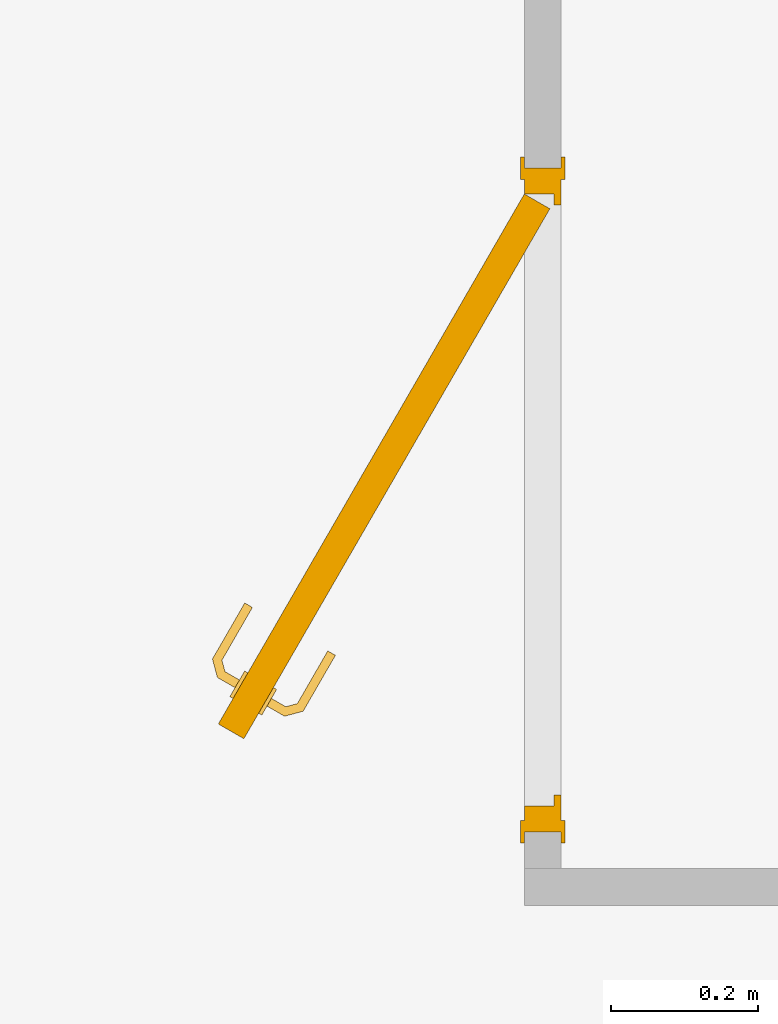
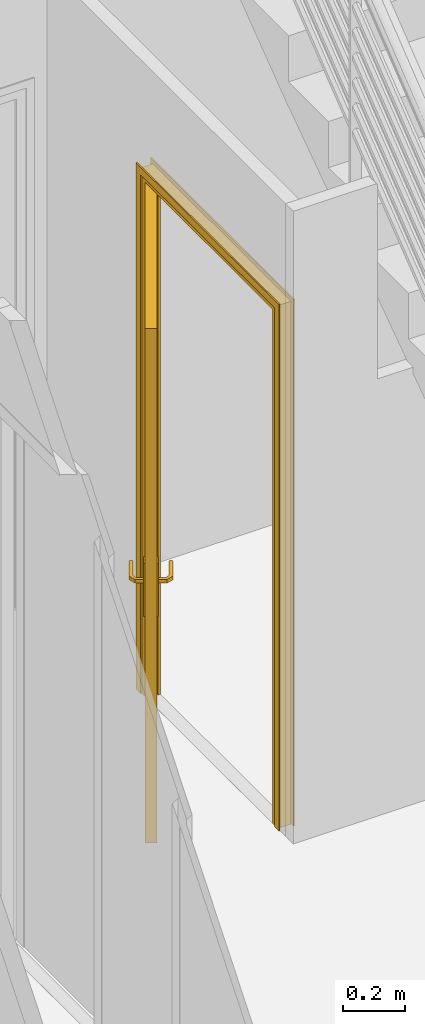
# One storey, part 11 of 13: 1 door.
"""IFC2X3 building model written with IfcOpenShell, lengths in millimetres."""

from ifc_helpers import new_model, entity, si_unit, converted_unit, direction, frame, origin, origin_with_axes, place, context, project, spatial, faceted_brep, element, save


model = new_model("IFC2X3")

# Units and contexts
model_context = context("Model", 3, precision=1e-05, world=origin(), true_north=direction((0.0, 1.0, 0.0)))
ifc_project = project(units=[si_unit("LENGTHUNIT", "METRE", prefix="MILLI"), si_unit("AREAUNIT", "SQUARE_METRE"), si_unit("VOLUMEUNIT", "CUBIC_METRE"), converted_unit("PLANEANGLEUNIT", "DEGREE", entity("IfcPlaneAngleMeasure", 0.01745), si_unit("PLANEANGLEUNIT", "RADIAN"), dimensions=[0, 0, 0, 0, 0, 0, 0]), si_unit("SOLIDANGLEUNIT", "STERADIAN"), si_unit("MASSUNIT", "GRAM"), si_unit("TIMEUNIT", "SECOND"), si_unit("THERMODYNAMICTEMPERATUREUNIT", "DEGREE_CELSIUS"), si_unit("LUMINOUSINTENSITYUNIT", "LUMEN")], contexts=[model_context])

# Site, building, storey
placement = place(None, origin_with_axes())
site_placement = place(placement, frame((11636.08881703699, 2815.7442167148, 4.768371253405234e-06), z_axis=(0.0, 0.0, 1.0), x_axis=(1.0, 0.0, 0.0)))
site = spatial("IfcSite", under=ifc_project, at=site_placement, Name="Surface", CompositionType="ELEMENT")
building_placement = place(placement, origin_with_axes())
building = spatial("IfcBuilding", under=site, at=building_placement, Name="Default Building", CompositionType="ELEMENT")
storey_placement = place(building_placement, origin_with_axes())
storey = spatial("IfcBuildingStorey", under=building, at=storey_placement, Name="Rez de chaussée", CompositionType="ELEMENT", Elevation=0.0)

# Door
door_placement = place(storey_placement, frame((11636.08881703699, 2815.7442167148, 4.768371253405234e-06), z_axis=(0.0, 0.0, 1.0), x_axis=(1.0, 0.0, 0.0)))
element("IfcDoor", 1, at=door_placement, inside=storey, Name="IfcDoor - Int. Simple:PP (0.83m x 2.04m)", context=model_context, shape_type="Brep", body=[
    faceted_brep([(68.91118184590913, 29.25578090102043, 4.291534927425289e-05), (73.91118080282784, -0.7442202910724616, 4.291534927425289e-05), (68.91118184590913, -0.7442202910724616, 4.291534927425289e-05), (73.91118080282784, 29.25578090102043, 4.291534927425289e-05), (68.91118184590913, 899.255785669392, 4.291534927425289e-05), (73.91118080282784, 929.2557868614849, 4.291534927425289e-05), (73.91118080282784, 899.255785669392, 4.291534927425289e-05), (68.91118184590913, 929.2557868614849, 4.291534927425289e-05), (68.91118184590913, 29.25578090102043, 2059.99998569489), (73.91118080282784, 899.255785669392, 2059.99998569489), (73.91118080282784, 29.25578090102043, 2059.99998569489), (68.91118184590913, 899.255785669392, 2059.99998569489), (73.91118080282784, -0.7442202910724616, 2089.999957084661), (68.91118184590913, 929.2557868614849, 2089.999957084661), (68.91118184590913, -0.7442202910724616, 2089.999957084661), (73.91118080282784, 929.2557868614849, 2089.999957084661), (123.9111815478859, 29.25578090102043, 2059.99998569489), (128.9111805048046, 899.255785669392, 2059.99998569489), (128.9111805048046, 29.25578090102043, 2059.99998569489), (123.9111815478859, 899.255785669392, 2059.99998569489), (128.9111805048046, -0.7442202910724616, 2089.999957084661), (123.9111815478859, 929.2557868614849, 2089.999957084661), (123.9111815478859, -0.7442202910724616, 2089.999957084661), (128.9111805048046, 929.2557868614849, 2089.999957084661), (123.9111815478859, 929.2557868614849, 4.291534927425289e-05), (128.9111805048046, 929.2557868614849, 4.291534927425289e-05), (128.9111805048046, 899.255785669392, 4.291534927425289e-05), (123.9111815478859, 899.255785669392, 4.291534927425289e-05), (123.9111815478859, 29.25578090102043, 4.291534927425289e-05), (128.9111805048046, 29.25578090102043, 4.291534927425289e-05), (128.9111805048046, -0.7442202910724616, 4.291534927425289e-05), (123.9111815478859, -0.7442202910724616, 4.291534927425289e-05), (73.91118080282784, 49.25579162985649, 2040.000004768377), (113.9111808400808, 879.2557749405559, 2040.000004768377), (113.9111808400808, 49.25579162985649, 2040.000004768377), (73.91118080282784, 879.2557749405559, 2040.000004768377), (113.9111808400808, 64.25577732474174, 2025.000019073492), (123.9111815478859, 864.2557892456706, 2025.000019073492), (123.9111815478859, 64.25577732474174, 2025.000019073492), (113.9111808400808, 864.2557892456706, 2025.000019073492), (123.9111815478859, 14.25579520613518, 2074.999971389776), (73.91118080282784, 914.2557713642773, 2074.999971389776), (73.91118080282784, 14.25579520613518, 2074.999971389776), (123.9111815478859, 914.2557713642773, 2074.999971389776), (113.9111808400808, 879.2557749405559, 4.291534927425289e-05), (73.91118080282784, 879.2557749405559, 4.291534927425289e-05), (123.9111815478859, 864.2557892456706, 4.291534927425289e-05), (113.9111808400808, 864.2557892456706, 4.291534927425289e-05), (123.9111815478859, 914.2557713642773, 4.291534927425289e-05), (73.91118080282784, 914.2557713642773, 4.291534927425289e-05), (73.91118080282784, 49.25579162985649, 4.291534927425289e-05), (73.91118080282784, 14.25579520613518, 4.291534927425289e-05), (113.9111808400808, 49.25579162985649, 4.291534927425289e-05), (113.9111808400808, 64.25577732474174, 4.291534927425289e-05), (123.9111815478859, 64.25577732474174, 4.291534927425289e-05), (123.9111815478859, 14.25579520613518, 4.291534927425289e-05), (-306.4478077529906, 140.4547096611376, 2039.999980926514), (-341.088820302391, 160.4546905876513, 1.907348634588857e-05), (-306.4478077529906, 140.4547096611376, 1.907348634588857e-05), (-341.088820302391, 160.4546905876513, 2039.999980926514), (73.91118625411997, 879.2557717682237, 1.907348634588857e-05), (108.5521988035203, 859.2557908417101, 1.907348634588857e-05), (73.91118625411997, 879.2557717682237, 2039.999980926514), (108.5521988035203, 859.2557908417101, 2039.999980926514), (-231.3367275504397, 184.660525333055, 992.2195583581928), (-208.5310479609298, 220.1105219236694, 992.1213131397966), (-228.6677135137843, 181.1821994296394, 992.2195583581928), (-206.0834651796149, 212.3498593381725, 992.99999922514), (-213.3156133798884, 223.8234125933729, 992.99999922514), (-189.2332842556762, 257.5858191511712, 992.2195583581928), (-185.7253646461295, 255.5605203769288, 992.2195583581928), (-192.6754822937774, 259.5731693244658, 992.99999922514), (-233.9557295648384, 188.0736772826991, 992.99999922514), (-226.0487077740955, 177.769043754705, 992.99999922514), (-182.2831740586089, 253.573169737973, 992.99999922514), (-226.0487077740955, 177.769043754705, 1007.000001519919), (-206.0834651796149, 212.3498593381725, 1007.000001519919), (-182.2831740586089, 253.573169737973, 1007.000001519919), (-189.2332842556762, 257.5858191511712, 1007.780442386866), (-208.5310479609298, 220.1105219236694, 1007.878685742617), (-185.7253646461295, 255.5605203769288, 1007.780442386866), (-213.3156059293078, 223.8234237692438, 1007.000001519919), (-231.3367275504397, 184.660525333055, 1007.780442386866), (-228.6677135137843, 181.1821994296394, 1007.780442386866), (-192.6754822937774, 259.5731693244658, 1007.000001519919), (-233.9557295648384, 188.0736772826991, 1007.000001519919), (-250.2064656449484, 179.6043899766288, 992.2195583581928), (-249.644918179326, 183.8697728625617, 992.99999922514), (-251.3402838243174, 170.9921893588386, 992.99999922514), (-250.7787354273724, 175.2575647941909, 992.2195583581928), (-251.3402838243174, 170.9921893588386, 1007.000001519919), (-250.7787354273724, 175.2575647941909, 1007.780442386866), (-249.644918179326, 183.8697728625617, 1007.000001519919), (-250.2064656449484, 179.6043899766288, 1007.780442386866), (-271.1050261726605, 191.6701842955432, 992.2195583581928), (-269.1176757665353, 195.1123748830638, 992.99999922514), (-273.1303249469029, 188.1622609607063, 992.2195583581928), (-275.1176755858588, 184.7200703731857, 992.99999922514), (-275.1176755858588, 184.7200703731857, 1007.000001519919), (-273.1303249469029, 188.1622609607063, 1007.780442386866), (-271.1050261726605, 191.6701842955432, 1007.780442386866), (-269.1176757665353, 195.1123748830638, 1007.000001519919), (-305.2711820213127, 324.5489832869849, 992.99999922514), (-349.0918984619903, 248.6492809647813, 1007.000001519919), (-305.2711820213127, 324.5489832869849, 1007.000001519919), (-329.1266595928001, 283.2300898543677, 992.99999922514), (-349.0918984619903, 248.6492809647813, 992.99999922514), (-298.3210680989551, 320.5363389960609, 992.2195583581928), (-321.1543409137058, 285.0385506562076, 992.1213131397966), (-301.8289914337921, 322.5616377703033, 992.2195583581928), (-315.5465943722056, 282.7514496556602, 992.99999922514), (-340.4796903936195, 247.5154625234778, 992.2195583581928), (-344.8265155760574, 248.0877330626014, 992.2195583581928), (-294.8788775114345, 318.5489860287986, 992.99999922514), (-336.2143075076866, 246.9539146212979, 992.99999922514), (-294.8788775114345, 318.5489860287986, 1007.000001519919), (-315.5465943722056, 282.7514496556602, 1007.000001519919), (-336.2143075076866, 246.9539146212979, 1007.000001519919), (-340.4796903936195, 247.5154625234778, 1007.780442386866), (-321.1543409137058, 285.0385506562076, 1007.878685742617), (-344.8265155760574, 248.0877330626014, 1007.780442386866), (-329.1266521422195, 283.2300973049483, 1007.000001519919), (-298.3210680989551, 320.5363389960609, 1007.780442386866), (-301.8289914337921, 322.5616377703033, 1007.780442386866), (-342.3653727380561, 223.5455450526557, 992.99999922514), (-342.3653727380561, 223.5455450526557, 1007.000001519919), (-338.9522170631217, 226.1645507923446, 992.2195583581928), (-332.0607354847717, 231.4525687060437, 992.99999922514), (-335.4738911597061, 228.833564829, 992.2195583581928), (-332.0607354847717, 231.4525687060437, 1007.000001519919), (-335.4738911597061, 228.833564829, 1007.780442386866), (-338.9522170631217, 226.1645507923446, 1007.780442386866), (-318.418945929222, 209.7200688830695, 992.99999922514), (-318.418945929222, 209.7200688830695, 1007.000001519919), (-316.4315966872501, 213.1622631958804, 992.2195583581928), (-314.4062979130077, 216.6701828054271, 992.2195583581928), (-312.4189449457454, 220.1123752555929, 992.99999922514), (-312.4189449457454, 220.1123752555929, 1007.000001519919), (-314.4062979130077, 216.6701828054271, 1007.780442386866), (-316.4315966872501, 213.1622631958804, 1007.780442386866), (-262.1176755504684, 207.2367307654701, 870.0000032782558), (-266.4478027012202, 209.7367321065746, 1079.999996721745), (-262.1176755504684, 207.2367307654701, 1079.999996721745), (-266.4478027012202, 209.7367321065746, 870.0000032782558), (-271.2714218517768, 201.3819788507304, 866.0039812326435), (-266.9412947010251, 198.8819775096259, 866.0039812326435), (-272.1176755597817, 189.9162207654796, 864.6410167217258), (-276.4478025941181, 192.4162221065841, 864.6410167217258), (-277.294056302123, 180.9504640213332, 866.0039812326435), (-281.6241828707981, 183.4504690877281, 866.0039812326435), (-282.1176758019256, 172.5957107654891, 870.0000032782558), (-286.4478023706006, 175.095715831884, 870.0000032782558), (-286.4478023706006, 175.095715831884, 1079.999996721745), (-282.1176758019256, 172.5957107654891, 1079.999996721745), (-281.6241828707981, 183.4504690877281, 1083.996018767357), (-277.294056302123, 180.9504640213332, 1083.996018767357), (-272.1176755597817, 189.9162207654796, 1085.358983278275), (-276.4478025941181, 192.4162221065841, 1085.358983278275), (-266.9412947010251, 198.8819775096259, 1083.996018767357), (-271.2714218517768, 201.3819788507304, 1083.996018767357), (-321.0888205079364, 195.0957153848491, 870.0000032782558), (-325.4189452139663, 197.5957130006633, 1079.999996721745), (-325.4189452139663, 197.5957130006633, 870.0000032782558), (-321.0888205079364, 195.0957153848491, 1079.999996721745), (-320.5953275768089, 205.9504662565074, 1083.996018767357), (-316.2651991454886, 203.4504686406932, 1083.996018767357), (-311.0888188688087, 212.4162216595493, 1085.358983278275), (-315.4189473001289, 214.9162230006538, 1085.358983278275), (-305.9124385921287, 221.3819765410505, 1083.996018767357), (-310.2425632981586, 223.881977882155, 1083.996018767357), (-301.088817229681, 229.7367297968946, 1079.999996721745), (-305.4189456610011, 232.2367302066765, 1079.999996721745), (-301.088817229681, 229.7367297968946, 870.0000032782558), (-305.4189456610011, 232.2367302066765, 870.0000032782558), (-310.2425632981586, 223.881977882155, 866.0039812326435), (-305.9124385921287, 221.3819765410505, 866.0039812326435), (-311.0888188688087, 212.4162216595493, 864.6410167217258), (-315.4189473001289, 214.9162230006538, 864.6410167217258), (-316.2651991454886, 203.4504686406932, 866.0039812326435), (-320.5953275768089, 205.9504662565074, 866.0039812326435)], [[[0, 1, 2]], [[0, 3, 1]], [[4, 5, 6]], [[4, 7, 5]], [[8, 9, 10]], [[8, 11, 9]], [[12, 13, 14]], [[12, 15, 13]], [[15, 7, 13]], [[15, 5, 7]], [[11, 6, 9]], [[11, 4, 6]], [[0, 10, 3]], [[0, 8, 10]], [[12, 10, 15]], [[1, 10, 12]], [[10, 1, 3]], [[9, 15, 10]], [[6, 15, 9]], [[15, 6, 5]], [[1, 14, 2]], [[1, 12, 14]], [[13, 11, 14]], [[7, 11, 13]], [[11, 7, 4]], [[8, 14, 11]], [[0, 14, 8]], [[14, 0, 2]], [[16, 17, 18]], [[16, 19, 17]], [[20, 21, 22]], [[20, 23, 21]], [[23, 24, 21]], [[23, 25, 24]], [[19, 26, 17]], [[19, 27, 26]], [[27, 25, 26]], [[27, 24, 25]], [[28, 18, 29]], [[28, 16, 18]], [[20, 18, 23]], [[30, 18, 20]], [[18, 30, 29]], [[17, 23, 18]], [[26, 23, 17]], [[23, 26, 25]], [[30, 22, 31]], [[30, 20, 22]], [[21, 19, 22]], [[24, 19, 21]], [[19, 24, 27]], [[16, 22, 19]], [[28, 22, 16]], [[22, 28, 31]], [[28, 30, 31]], [[28, 29, 30]], [[32, 33, 34]], [[32, 35, 33]], [[36, 37, 38]], [[36, 39, 37]], [[40, 41, 42]], [[40, 43, 41]], [[35, 44, 33]], [[35, 45, 44]], [[39, 46, 37]], [[39, 47, 46]], [[47, 48, 46]], [[44, 48, 47]], [[45, 48, 44]], [[48, 45, 49]], [[43, 49, 41]], [[43, 48, 49]], [[41, 35, 42]], [[49, 35, 41]], [[35, 49, 45]], [[32, 42, 35]], [[50, 42, 32]], [[42, 50, 51]], [[50, 34, 52]], [[50, 32, 34]], [[33, 39, 34]], [[44, 39, 33]], [[39, 44, 47]], [[36, 34, 39]], [[53, 34, 36]], [[34, 53, 52]], [[53, 38, 54]], [[53, 36, 38]], [[40, 38, 43]], [[55, 38, 40]], [[38, 55, 54]], [[37, 43, 38]], [[46, 43, 37]], [[43, 46, 48]], [[55, 42, 51]], [[55, 40, 42]], [[54, 52, 53]], [[55, 52, 54]], [[55, 50, 52]], [[50, 55, 51]], [[56, 57, 58]], [[56, 59, 57]], [[58, 60, 61]], [[58, 57, 60]], [[61, 62, 63]], [[61, 60, 62]], [[63, 59, 56]], [[63, 62, 59]], [[59, 60, 57]], [[59, 62, 60]], [[56, 61, 63]], [[56, 58, 61]], [[64, 65, 66]], [[65, 67, 66]], [[65, 68, 69]], [[65, 69, 70]], [[71, 69, 68]], [[68, 64, 72]], [[64, 68, 65]], [[67, 73, 66]], [[67, 70, 74]], [[65, 70, 67]], [[67, 75, 73]], [[74, 75, 67]], [[74, 76, 75]], [[76, 74, 77]], [[78, 79, 80]], [[79, 81, 82]], [[79, 82, 83]], [[79, 83, 76]], [[76, 83, 75]], [[80, 76, 77]], [[78, 84, 81]], [[82, 81, 85]], [[80, 79, 76]], [[79, 78, 81]], [[81, 72, 85]], [[84, 72, 81]], [[84, 68, 72]], [[68, 84, 71]], [[70, 77, 74]], [[70, 80, 77]], [[69, 80, 70]], [[69, 78, 80]], [[69, 84, 78]], [[84, 69, 71]], [[86, 72, 64]], [[86, 87, 72]], [[88, 66, 73]], [[88, 89, 66]], [[73, 90, 88]], [[73, 75, 90]], [[90, 83, 91]], [[90, 75, 83]], [[92, 82, 85]], [[92, 93, 82]], [[85, 87, 92]], [[85, 72, 87]], [[94, 87, 86]], [[94, 95, 87]], [[66, 86, 64]], [[89, 86, 66]], [[89, 94, 86]], [[94, 89, 96]], [[97, 89, 88]], [[97, 96, 89]], [[90, 97, 88]], [[90, 98, 97]], [[98, 91, 99]], [[98, 90, 91]], [[91, 93, 99]], [[83, 93, 91]], [[93, 83, 82]], [[99, 93, 100]], [[100, 92, 101]], [[100, 93, 92]], [[92, 95, 101]], [[92, 87, 95]], [[98, 96, 97]], [[99, 96, 98]], [[99, 94, 96]], [[100, 94, 99]], [[100, 95, 94]], [[95, 100, 101]], [[102, 103, 104]], [[105, 103, 102]], [[103, 105, 106]], [[107, 108, 109]], [[108, 110, 111]], [[108, 111, 112]], [[108, 112, 105]], [[105, 112, 106]], [[109, 105, 102]], [[107, 113, 110]], [[111, 110, 114]], [[109, 108, 105]], [[108, 107, 110]], [[115, 114, 113]], [[116, 114, 115]], [[114, 116, 117]], [[118, 119, 120]], [[119, 121, 120]], [[119, 116, 122]], [[119, 122, 123]], [[115, 122, 116]], [[116, 118, 117]], [[118, 116, 119]], [[121, 103, 120]], [[121, 123, 104]], [[119, 123, 121]], [[113, 122, 115]], [[107, 122, 113]], [[107, 123, 122]], [[109, 123, 107]], [[109, 104, 123]], [[104, 109, 102]], [[103, 124, 125]], [[103, 106, 124]], [[126, 106, 112]], [[126, 124, 106]], [[127, 111, 114]], [[127, 128, 111]], [[114, 129, 127]], [[114, 117, 129]], [[130, 117, 118]], [[130, 129, 117]], [[125, 120, 103]], [[125, 131, 120]], [[125, 132, 133]], [[125, 124, 132]], [[132, 126, 134]], [[132, 124, 126]], [[126, 128, 134]], [[112, 128, 126]], [[128, 112, 111]], [[134, 128, 135]], [[135, 127, 136]], [[135, 128, 127]], [[127, 137, 136]], [[127, 129, 137]], [[138, 129, 130]], [[138, 137, 129]], [[120, 130, 118]], [[130, 131, 139]], [[131, 130, 120]], [[138, 130, 139]], [[133, 131, 125]], [[133, 139, 131]], [[134, 133, 132]], [[134, 139, 133]], [[135, 139, 134]], [[135, 138, 139]], [[135, 137, 138]], [[137, 135, 136]], [[140, 141, 142]], [[140, 143, 141]], [[144, 140, 145]], [[144, 143, 140]], [[144, 146, 147]], [[144, 145, 146]], [[147, 148, 149]], [[147, 146, 148]], [[149, 150, 151]], [[149, 148, 150]], [[150, 152, 151]], [[150, 153, 152]], [[154, 153, 155]], [[154, 152, 153]], [[154, 156, 157]], [[154, 155, 156]], [[157, 158, 159]], [[157, 156, 158]], [[159, 142, 141]], [[159, 158, 142]], [[146, 150, 148]], [[146, 153, 150]], [[145, 153, 146]], [[145, 155, 153]], [[140, 155, 145]], [[140, 156, 155]], [[140, 158, 156]], [[158, 140, 142]], [[159, 154, 157]], [[141, 154, 159]], [[141, 152, 154]], [[141, 151, 152]], [[143, 151, 141]], [[144, 151, 143]], [[144, 149, 151]], [[149, 144, 147]], [[160, 161, 162]], [[160, 163, 161]], [[164, 163, 165]], [[164, 161, 163]], [[164, 166, 167]], [[164, 165, 166]], [[167, 168, 169]], [[167, 166, 168]], [[169, 170, 171]], [[169, 168, 170]], [[172, 171, 170]], [[172, 173, 171]], [[174, 172, 175]], [[174, 173, 172]], [[174, 176, 177]], [[174, 175, 176]], [[177, 178, 179]], [[177, 176, 178]], [[179, 160, 162]], [[179, 178, 160]], [[175, 178, 176]], [[172, 178, 175]], [[172, 160, 178]], [[170, 160, 172]], [[170, 163, 160]], [[168, 163, 170]], [[168, 165, 163]], [[165, 168, 166]], [[169, 164, 167]], [[171, 164, 169]], [[171, 161, 164]], [[171, 162, 161]], [[173, 162, 171]], [[174, 162, 173]], [[174, 179, 162]], [[179, 174, 177]]]),
])

save(model, "model.ifc")
